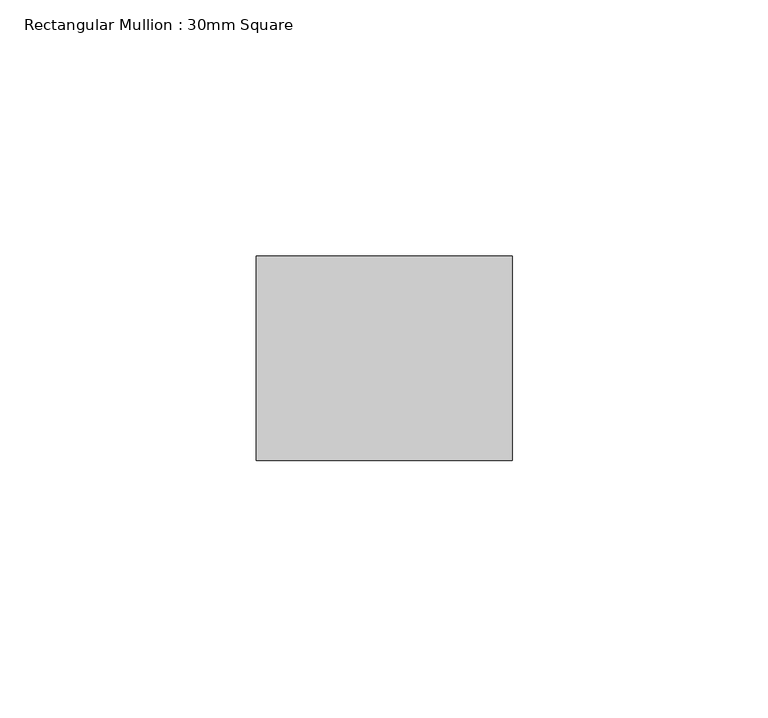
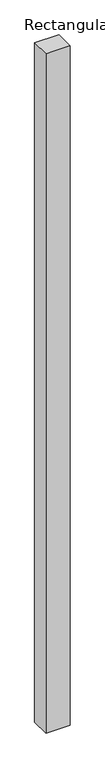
"""IFC4 building model written with IfcOpenShell, lengths in millimetres: member geometry, Rectangular Mullion : 30mm Square."""

from ifc_helpers import new_model, si_unit, frame, origin, place, context, project, spatial, polyline, outline, extrude, source, transform, mapped, element, save


def rectangular_mullion_30mm_square_46f73a3d(model_context):
    return source(origin(), model_context, "Body", "SweptSolid", [
        extrude(outline(polyline([(25.0, 20.0), (25.0, -20.0), (-25.0, -20.0), (-25.0, 20.0), (25.0, 20.0)])), frame((0.0, 0.0, -1490.0), z_axis=(0.0, 0.0, 1.0), x_axis=(1.0, 0.0, 0.0)), (0.0, 0.0, 1.0), 1490.0),
    ])


if __name__ == "__main__":
    model = new_model("IFC4")
    model_context = context("Model", 3, world=origin())
    ifc_project = project(units=[si_unit("LENGTHUNIT", "METRE", prefix="MILLI")], contexts=[model_context])
    site = spatial("IfcSite", under=ifc_project)
    building = spatial("IfcBuilding", under=site)
    placement = place(None, origin())
    rectangular_mullion_30mm_square_shape = rectangular_mullion_30mm_square_46f73a3d(model_context)
    element("IfcMember", 1, ObjectType="Rectangular Mullion : 30mm Square", at=placement, inside=building, context=model_context, shape_type="MappedRepresentation", body=[
        mapped(rectangular_mullion_30mm_square_shape, transform((0.0, 0.0, 0.0), x_axis=(1.0, 0.0, 0.0), y_axis=(0.0, 1.0, 0.0), z_axis=(0.0, 0.0, 1.0))),
    ])
    save(model, "model.ifc")
